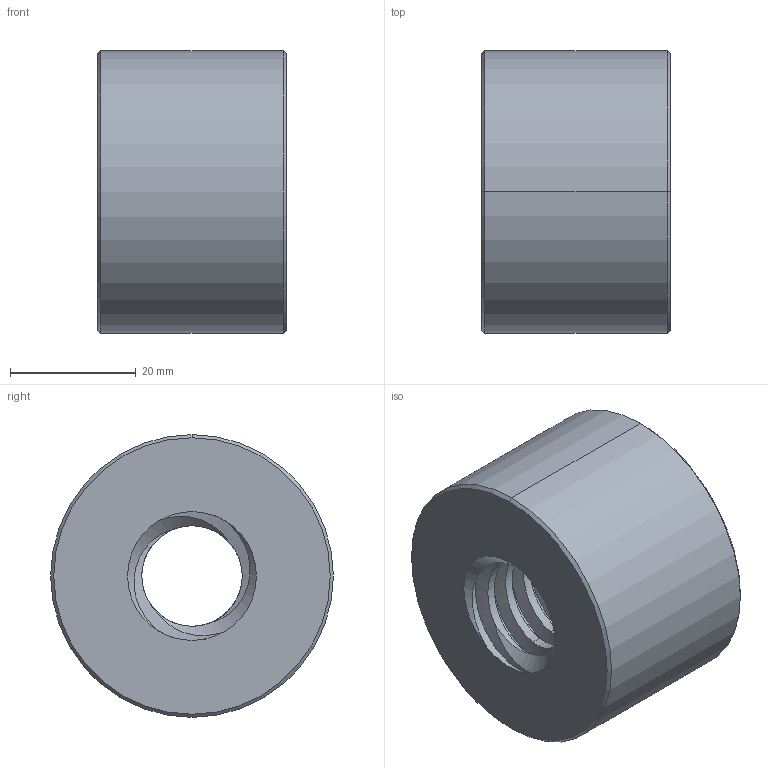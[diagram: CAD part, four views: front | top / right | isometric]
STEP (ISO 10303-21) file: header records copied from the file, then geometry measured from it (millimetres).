
FILE_DESCRIPTION((''),'2;1');
FILE_NAME('711-020-1105_PRT','2024-03-23T',('Brieden'),('ib-brieden'),'PRO/ENGINEER BY PARAMETRIC TECHNOLOGY CORPORATION, 2010160','PRO/ENGINEER BY PARAMETRIC TECHNOLOGY CORPORATION, 2010160','');
FILE_SCHEMA(('AUTOMOTIVE_DESIGN { 1 0 10303 214 1 1 1 1 }'));
Length unit declared in the file: millimetre
Products named in the file (1): 711-020-1105_PRT
Bounding box: 30 x 45 x 45 mm (x, y, z)
Volume: 39669.8 mm3; surface area: 9856.9 mm2
Topology: 1 solids, 1 shells, 37 faces, 89 edges, 54 vertices
Faces by surface type: cylinder 14, bspline 12, cone 9, plane 2
Entity records: 4041 total; most frequent: CARTESIAN_POINT 3240, ORIENTED_EDGE 178, DIRECTION 107, EDGE_CURVE 89, VERTEX_POINT 54, B_SPLINE_CURVE_WITH_KNOTS 49, AXIS2_PLACEMENT_3D 42, EDGE_LOOP 39
